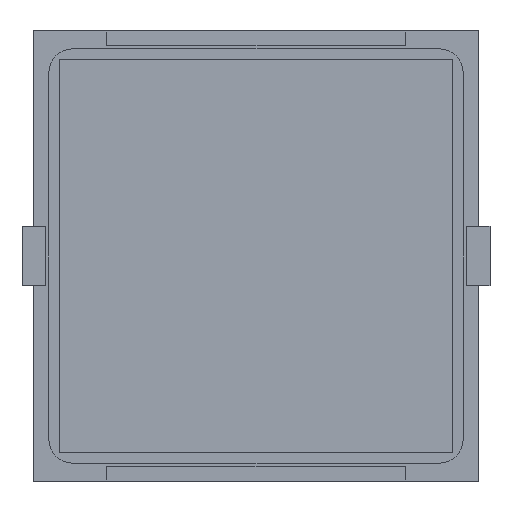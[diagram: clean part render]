
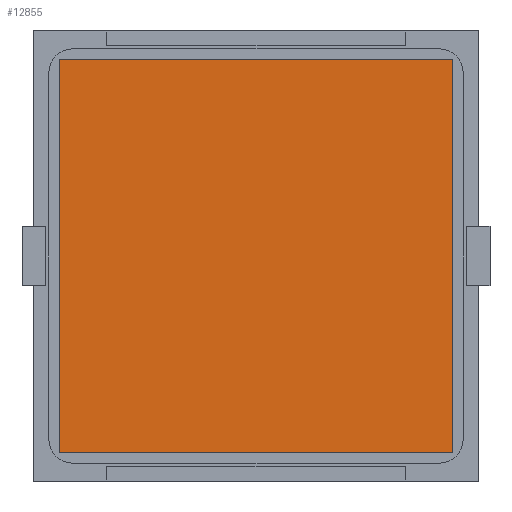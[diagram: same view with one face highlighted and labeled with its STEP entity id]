
A CAD part, front view. The second image highlights one B-rep face of the part: STEP entity #12855.
In plain terms, the highlighted planar face has unit normal (0, -1, 0).
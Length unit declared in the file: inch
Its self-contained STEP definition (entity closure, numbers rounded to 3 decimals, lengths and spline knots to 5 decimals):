
#642 = VECTOR ( 'NONE', #4667, 39.37008 ) ;
#1102 = ORIENTED_EDGE ( 'NONE', *, *, #15037, .T. ) ;
#2529 = DIRECTION ( 'NONE',  ( 0., 0., 1. ) ) ;
#3463 = VECTOR ( 'NONE', #5914, 39.37008 ) ;
#4364 = CARTESIAN_POINT ( 'NONE',  ( -0.64961, -0.005, 0.64961 ) ) ;
#4484 = LINE ( 'NONE', #13502, #642 ) ;
#4667 = DIRECTION ( 'NONE',  ( -1., 0., 0. ) ) ;
#4708 = LINE ( 'NONE', #12291, #3463 ) ;
#4909 = DIRECTION ( 'NONE',  ( 0., -1., 0. ) ) ;
#5369 = VECTOR ( 'NONE', #14908, 39.37008 ) ;
#5515 = VERTEX_POINT ( 'NONE', #14297 ) ;
#5914 = DIRECTION ( 'NONE',  ( 0., 0., 1. ) ) ;
#6323 = EDGE_CURVE ( 'NONE', #5515, #8048, #4708, .T. ) ;
#6497 = VERTEX_POINT ( 'NONE', #4364 ) ;
#8048 = VERTEX_POINT ( 'NONE', #13069 ) ;
#8171 = AXIS2_PLACEMENT_3D ( 'NONE', #16120, #4909, #2529 ) ;
#8455 = LINE ( 'NONE', #12247, #14774 ) ;
#9640 = DIRECTION ( 'NONE',  ( 1., 0., 0. ) ) ;
#11069 = EDGE_LOOP ( 'NONE', ( #13925, #14806, #1102, #11815 ) ) ;
#11350 = FACE_OUTER_BOUND ( 'NONE', #11069, .T. ) ;
#11815 = ORIENTED_EDGE ( 'NONE', *, *, #12733, .T. ) ;
#12247 = CARTESIAN_POINT ( 'NONE',  ( 0.64961, -0.005, -0.64961 ) ) ;
#12291 = CARTESIAN_POINT ( 'NONE',  ( 0.64961, -0.005, -0.64961 ) ) ;
#12405 = CARTESIAN_POINT ( 'NONE',  ( -0.64961, -0.005, -0.64961 ) ) ;
#12733 = EDGE_CURVE ( 'NONE', #14461, #5515, #8455, .T. ) ;
#12749 = EDGE_CURVE ( 'NONE', #8048, #6497, #4484, .T. ) ;
#12855 = ADVANCED_FACE ( 'NONE', ( #11350 ), #13987, .T. ) ;
#13069 = CARTESIAN_POINT ( 'NONE',  ( 0.64961, -0.005, 0.64961 ) ) ;
#13502 = CARTESIAN_POINT ( 'NONE',  ( 0.64961, -0.005, 0.64961 ) ) ;
#13503 = LINE ( 'NONE', #12405, #5369 ) ;
#13925 = ORIENTED_EDGE ( 'NONE', *, *, #6323, .T. ) ;
#13987 = PLANE ( 'NONE',  #8171 ) ;
#14297 = CARTESIAN_POINT ( 'NONE',  ( 0.64961, -0.005, -0.64961 ) ) ;
#14461 = VERTEX_POINT ( 'NONE', #16037 ) ;
#14774 = VECTOR ( 'NONE', #9640, 39.37008 ) ;
#14806 = ORIENTED_EDGE ( 'NONE', *, *, #12749, .T. ) ;
#14908 = DIRECTION ( 'NONE',  ( 0., 0., -1. ) ) ;
#15037 = EDGE_CURVE ( 'NONE', #6497, #14461, #13503, .T. ) ;
#16037 = CARTESIAN_POINT ( 'NONE',  ( -0.64961, -0.005, -0.64961 ) ) ;
#16120 = CARTESIAN_POINT ( 'NONE',  ( 0.64961, -0.005, 0.64961 ) ) ;
